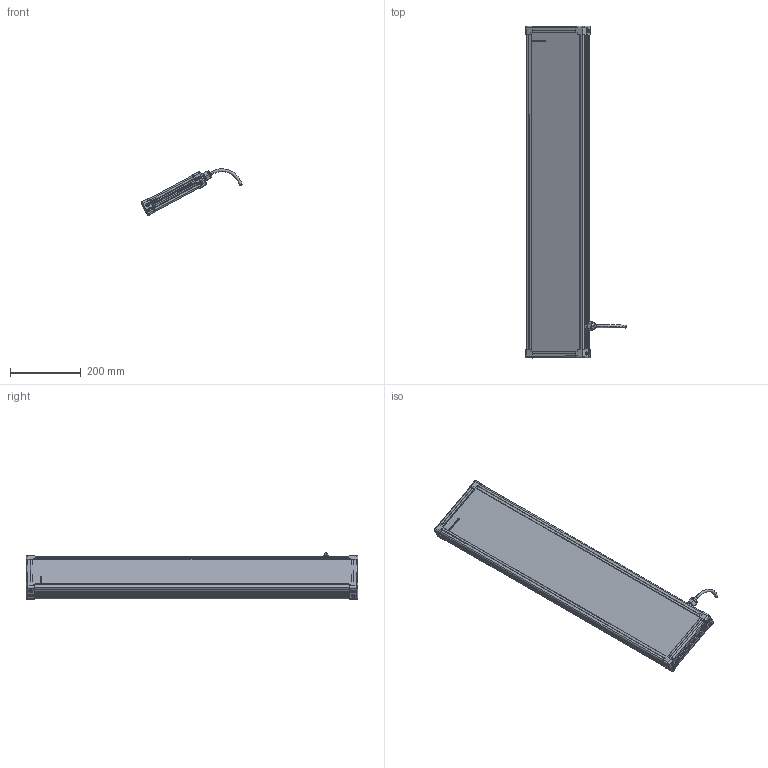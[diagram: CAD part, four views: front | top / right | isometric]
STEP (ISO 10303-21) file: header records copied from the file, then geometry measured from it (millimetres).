
FILE_DESCRIPTION (( 'STEP AP214' ), '1' );
FILE_NAME ('EFFI-BL-150-900-ZZZ 1x M12P.STEP', '2021-06-18T10:36:00', ( '' ), ( '' ), 'SwSTEP 2.0', 'SolidWorks 2021', '' );
FILE_SCHEMA (( 'AUTOMOTIVE_DESIGN' ));
Length unit declared in the file: millimetre
Products named in the file (9): profile Y_PERCE; profile X_PERCE; petite joue + vis; Pièce13^EFFI-BL-XXX-YYY-ZZZ -1M12POWER; EFFI-BL-150-900-ZZZ 1x M12P; petite joue; 000629; M12 power_AVEC CABLE D8.1
Assembly tree (13 placements, depth 3):
  EFFI-BL-150-900-ZZZ 1x M12P
    profile X_PERCE  x2
    profile Y_PERCE
    profile Y_PERCE
    Pièce13^EFFI-BL-XXX-YYY-ZZZ -1M12POWER
    petite joue + vis  x4
      petite joue
      000629
    M12 power_AVEC CABLE D8.1
Bounding box: 285.62 x 939 x 131.32 mm (x, y, z)
Volume: 6105856 mm3; surface area: 685391.8 mm2
Topology: 17 solids, 20 shells, 3578 faces, 9609 edges, 6361 vertices
Faces by surface type: plane 2380, bspline 591, cylinder 583, cone 20, torus 4
Entity records: 49711 total; most frequent: CARTESIAN_POINT 21554, ORIENTED_EDGE 6036, DIRECTION 4529, EDGE_CURVE 3020, LINE 2261, VECTOR 2261, VERTEX_POINT 2008, EDGE_LOOP 1222
